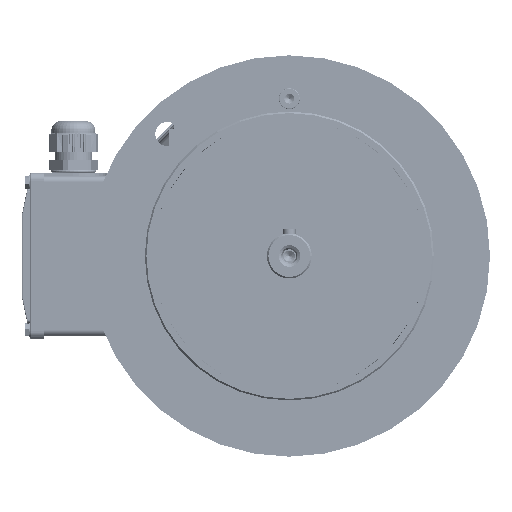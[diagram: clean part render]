
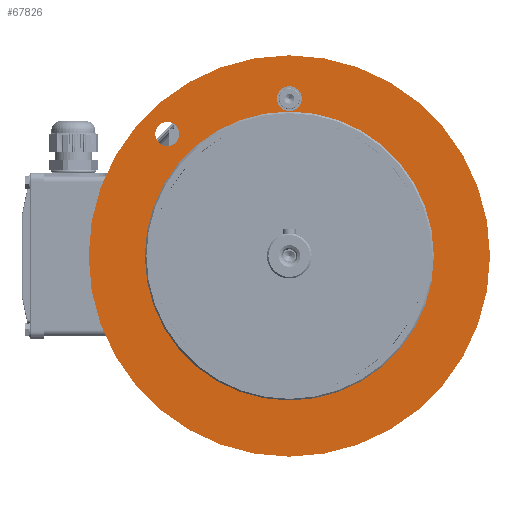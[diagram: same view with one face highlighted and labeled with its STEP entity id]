
A CAD part, left-side view. The second image highlights one B-rep face of the part: STEP entity #67826.
In plain terms, the highlighted planar face has unit normal (-1, 0, 0).
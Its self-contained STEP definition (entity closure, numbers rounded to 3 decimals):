
#2179 = CIRCLE ( 'NONE', #64130, 7.5 ) ;
#2681 = EDGE_CURVE ( 'NONE', #22179, #59813, #85344, .T. ) ;
#3932 = DIRECTION ( 'NONE',  ( 0., 0., -1. ) ) ;
#4321 = FACE_OUTER_BOUND ( 'NONE', #75825, .T. ) ;
#5702 = EDGE_LOOP ( 'NONE', ( #83028, #44659 ) ) ;
#6449 = DIRECTION ( 'NONE',  ( 0., 0., -1. ) ) ;
#6875 = DIRECTION ( 'NONE',  ( 1., 0., 0. ) ) ;
#13640 = AXIS2_PLACEMENT_3D ( 'NONE', #91253, #71375, #29920 ) ;
#15072 = VERTEX_POINT ( 'NONE', #52313 ) ;
#15491 = AXIS2_PLACEMENT_3D ( 'NONE', #90849, #19199, #111922 ) ;
#19199 = DIRECTION ( 'NONE',  ( -1., 0., 0. ) ) ;
#19581 = AXIS2_PLACEMENT_3D ( 'NONE', #74178, #94049, #42645 ) ;
#21758 = CARTESIAN_POINT ( 'NONE',  ( -16., 0., 105.75 ) ) ;
#22179 = VERTEX_POINT ( 'NONE', #128065 ) ;
#22487 = CARTESIAN_POINT ( 'NONE',  ( -16., 0., -90. ) ) ;
#23848 = VERTEX_POINT ( 'NONE', #96699 ) ;
#24728 = DIRECTION ( 'NONE',  ( 1., 0., 0. ) ) ;
#26345 = EDGE_CURVE ( 'NONE', #108225, #23848, #2179, .T. ) ;
#29785 = ORIENTED_EDGE ( 'NONE', *, *, #56630, .T. ) ;
#29920 = DIRECTION ( 'NONE',  ( 0., 0., 1. ) ) ;
#30435 = DIRECTION ( 'NONE',  ( 0., 0., -1. ) ) ;
#32019 = AXIS2_PLACEMENT_3D ( 'NONE', #46507, #6875, #6449 ) ;
#39206 = VERTEX_POINT ( 'NONE', #22487 ) ;
#40180 = ORIENTED_EDGE ( 'NONE', *, *, #71360, .F. ) ;
#40626 = AXIS2_PLACEMENT_3D ( 'NONE', #66686, #77500, #57192 ) ;
#41826 = AXIS2_PLACEMENT_3D ( 'NONE', #67707, #97927, #56021 ) ;
#42645 = DIRECTION ( 'NONE',  ( 0., 0., 1. ) ) ;
#43825 = EDGE_LOOP ( 'NONE', ( #112260, #40180 ) ) ;
#44572 = CARTESIAN_POINT ( 'NONE',  ( -16., 0., -125. ) ) ;
#44659 = ORIENTED_EDGE ( 'NONE', *, *, #26345, .T. ) ;
#45466 = PLANE ( 'NONE',  #129450 ) ;
#46507 = CARTESIAN_POINT ( 'NONE',  ( -16., 0., 98. ) ) ;
#51673 = EDGE_CURVE ( 'NONE', #15072, #39206, #113543, .T. ) ;
#52313 = CARTESIAN_POINT ( 'NONE',  ( -16., 0., 90. ) ) ;
#55768 = CIRCLE ( 'NONE', #130808, 7.5 ) ;
#56021 = DIRECTION ( 'NONE',  ( 0., 0., -1. ) ) ;
#56630 = EDGE_CURVE ( 'NONE', #59813, #22179, #61161, .T. ) ;
#56877 = CIRCLE ( 'NONE', #15491, 90. ) ;
#57192 = DIRECTION ( 'NONE',  ( 0., 0., 1. ) ) ;
#59813 = VERTEX_POINT ( 'NONE', #44572 ) ;
#61161 = CIRCLE ( 'NONE', #40626, 125. ) ;
#63775 = ORIENTED_EDGE ( 'NONE', *, *, #131866, .T. ) ;
#64130 = AXIS2_PLACEMENT_3D ( 'NONE', #92215, #103039, #30435 ) ;
#66686 = CARTESIAN_POINT ( 'NONE',  ( -16., 0., 0. ) ) ;
#67707 = CARTESIAN_POINT ( 'NONE',  ( -16., 0., 98. ) ) ;
#67826 = ADVANCED_FACE ( 'NONE', ( #121898, #128389, #76818, #4321 ), #45466, .F. ) ;
#69134 = EDGE_CURVE ( 'NONE', #23848, #108225, #55768, .T. ) ;
#71360 = EDGE_CURVE ( 'NONE', #39206, #15072, #56877, .T. ) ;
#71375 = DIRECTION ( 'NONE',  ( -1., 0., 0. ) ) ;
#74178 = CARTESIAN_POINT ( 'NONE',  ( -16., 0., 0. ) ) ;
#75825 = EDGE_LOOP ( 'NONE', ( #105331, #29785 ) ) ;
#76456 = CARTESIAN_POINT ( 'NONE',  ( -16., 76.014, 76.014 ) ) ;
#76818 = FACE_BOUND ( 'NONE', #43825, .T. ) ;
#77156 = ORIENTED_EDGE ( 'NONE', *, *, #95202, .T. ) ;
#77500 = DIRECTION ( 'NONE',  ( -1., 0., 0. ) ) ;
#83028 = ORIENTED_EDGE ( 'NONE', *, *, #69134, .T. ) ;
#85344 = CIRCLE ( 'NONE', #13640, 125. ) ;
#88158 = VERTEX_POINT ( 'NONE', #21758 ) ;
#90849 = CARTESIAN_POINT ( 'NONE',  ( -16., 0., 0. ) ) ;
#91253 = CARTESIAN_POINT ( 'NONE',  ( -16., 0., 0. ) ) ;
#92215 = CARTESIAN_POINT ( 'NONE',  ( -16., 76.014, 76.014 ) ) ;
#94049 = DIRECTION ( 'NONE',  ( -1., 0., 0. ) ) ;
#95202 = EDGE_CURVE ( 'NONE', #88158, #129900, #125295, .T. ) ;
#95222 = EDGE_LOOP ( 'NONE', ( #77156, #63775 ) ) ;
#95977 = CARTESIAN_POINT ( 'NONE',  ( -16., 90., 0. ) ) ;
#96699 = CARTESIAN_POINT ( 'NONE',  ( -16., 76.014, 68.514 ) ) ;
#97927 = DIRECTION ( 'NONE',  ( 1., 0., 0. ) ) ;
#103039 = DIRECTION ( 'NONE',  ( 1., 0., 0. ) ) ;
#105331 = ORIENTED_EDGE ( 'NONE', *, *, #2681, .T. ) ;
#107100 = DIRECTION ( 'NONE',  ( 1., 0., 0. ) ) ;
#108225 = VERTEX_POINT ( 'NONE', #125038 ) ;
#111922 = DIRECTION ( 'NONE',  ( 0., 0., 1. ) ) ;
#112260 = ORIENTED_EDGE ( 'NONE', *, *, #51673, .F. ) ;
#113543 = CIRCLE ( 'NONE', #19581, 90. ) ;
#115764 = DIRECTION ( 'NONE',  ( 0., 0., -1. ) ) ;
#116760 = CIRCLE ( 'NONE', #41826, 7.75 ) ;
#121898 = FACE_BOUND ( 'NONE', #95222, .T. ) ;
#125038 = CARTESIAN_POINT ( 'NONE',  ( -16., 76.014, 83.514 ) ) ;
#125295 = CIRCLE ( 'NONE', #32019, 7.75 ) ;
#128065 = CARTESIAN_POINT ( 'NONE',  ( -16., 0., 125. ) ) ;
#128389 = FACE_BOUND ( 'NONE', #5702, .T. ) ;
#129450 = AXIS2_PLACEMENT_3D ( 'NONE', #95977, #24728, #115764 ) ;
#129900 = VERTEX_POINT ( 'NONE', #132458 ) ;
#130808 = AXIS2_PLACEMENT_3D ( 'NONE', #76456, #107100, #3932 ) ;
#131866 = EDGE_CURVE ( 'NONE', #129900, #88158, #116760, .T. ) ;
#132458 = CARTESIAN_POINT ( 'NONE',  ( -16., 0., 90.25 ) ) ;
